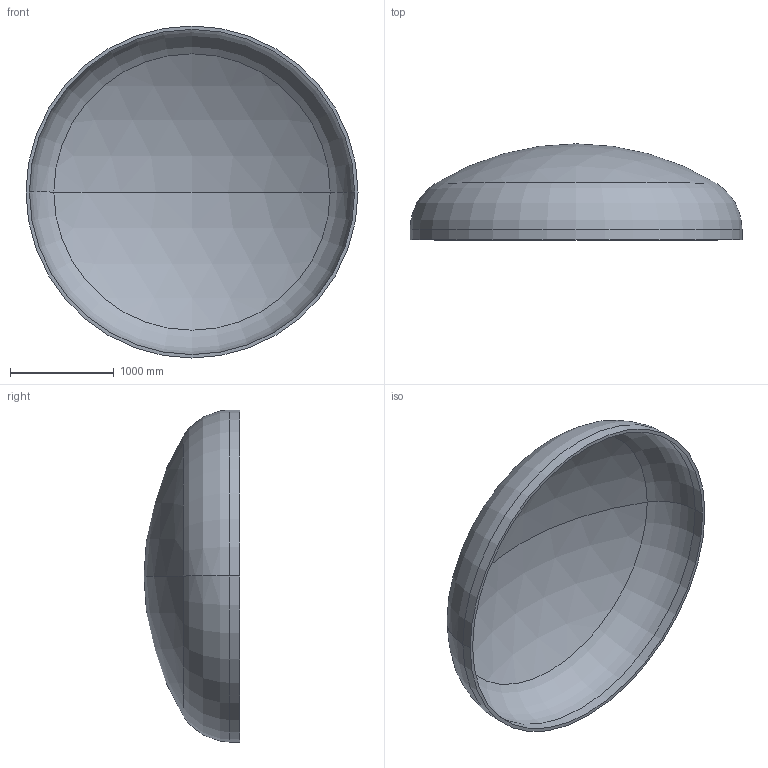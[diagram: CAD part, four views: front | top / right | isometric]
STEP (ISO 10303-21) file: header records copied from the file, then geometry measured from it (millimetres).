
FILE_DESCRIPTION (( 'STEP AP203' ), '1' );
FILE_NAME ('DIN 28013 Korbbogenform_-_Boden DIN 28013 - 3200 x 100 - I - s=33.step', '2016-07-01T18:32:04', ( '' ), ( '' ), 'SwSTEP 2.0', 'SolidWorks 2013', '' );
FILE_SCHEMA (( 'CONFIG_CONTROL_DESIGN' ));
Length unit declared in the file: millimetre
Products named in the file (1): DIN 28013 Korbbogenform_-_Boden DIN 28013 - 3200 x 100 - I - s=33
Bounding box: 3200 x 925.24 x 3200 mm (x, y, z)
Volume: 395027576.1 mm3; surface area: 24271668.2 mm2
Topology: 1 solids, 1 shells, 13 faces, 24 edges, 14 vertices
Faces by surface type: torus 4, cylinder 4, sphere 4, plane 1
Entity records: 407 total; most frequent: DIRECTION 72, CARTESIAN_POINT 52, ORIENTED_EDGE 48, AXIS2_PLACEMENT_3D 34, EDGE_CURVE 24, CIRCLE 20, EDGE_LOOP 14, VERTEX_POINT 14
